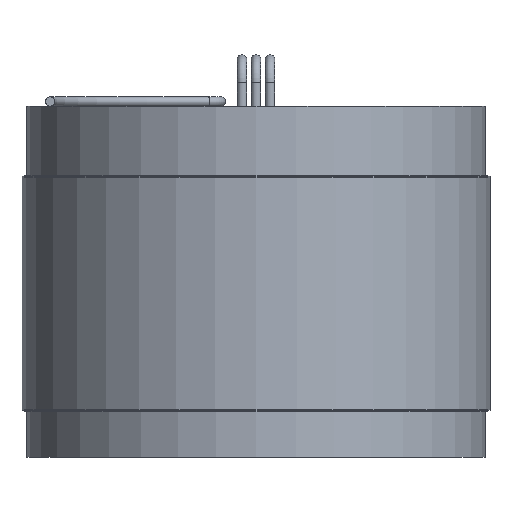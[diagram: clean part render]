
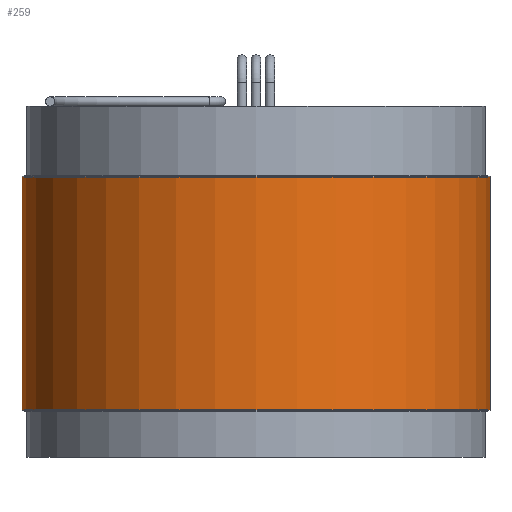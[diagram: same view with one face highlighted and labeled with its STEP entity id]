
A CAD part, front view. The second image highlights one B-rep face of the part: STEP entity #259.
In plain terms, the highlighted cylindrical face has radius 63.5 mm (diameter 127 mm), a full revolution.
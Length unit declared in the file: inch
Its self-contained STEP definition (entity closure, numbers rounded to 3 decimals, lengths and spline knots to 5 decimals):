
#159 = ORIENTED_EDGE ( 'NONE', *, *, #1017, .T. ) ;
#243 = CARTESIAN_POINT ( 'NONE',  ( 2.5, 0., 1.24213 ) ) ;
#259 = ADVANCED_FACE ( 'NONE', ( #943, #873 ), #466, .T. ) ;
#434 = DIRECTION ( 'NONE',  ( 0., 0., 1. ) ) ;
#466 = CYLINDRICAL_SURFACE ( 'NONE', #674, 2.5 ) ;
#528 = CARTESIAN_POINT ( 'NONE',  ( 0., 0., 1.24213 ) ) ;
#542 = EDGE_LOOP ( 'NONE', ( #159 ) ) ;
#564 = DIRECTION ( 'NONE',  ( 1., 0., 0. ) ) ;
#656 = AXIS2_PLACEMENT_3D ( 'NONE', #528, #1405, #748 ) ;
#661 = CARTESIAN_POINT ( 'NONE',  ( 2.5, 0., -1.24213 ) ) ;
#663 = VERTEX_POINT ( 'NONE', #661 ) ;
#665 = CARTESIAN_POINT ( 'NONE',  ( 0., 0., -1.26 ) ) ;
#674 = AXIS2_PLACEMENT_3D ( 'NONE', #665, #434, #564 ) ;
#748 = DIRECTION ( 'NONE',  ( 1., 0., 0. ) ) ;
#806 = CIRCLE ( 'NONE', #922, 2.5 ) ;
#827 = ORIENTED_EDGE ( 'NONE', *, *, #1346, .F. ) ;
#873 = FACE_OUTER_BOUND ( 'NONE', #542, .T. ) ;
#920 = CARTESIAN_POINT ( 'NONE',  ( 0., 0., -1.24213 ) ) ;
#922 = AXIS2_PLACEMENT_3D ( 'NONE', #920, #1236, #1036 ) ;
#943 = FACE_OUTER_BOUND ( 'NONE', #998, .T. ) ;
#998 = EDGE_LOOP ( 'NONE', ( #827 ) ) ;
#1017 = EDGE_CURVE ( 'NONE', #663, #663, #806, .T. ) ;
#1036 = DIRECTION ( 'NONE',  ( 1., 0., 0. ) ) ;
#1154 = VERTEX_POINT ( 'NONE', #243 ) ;
#1236 = DIRECTION ( 'NONE',  ( 0., 0., 1. ) ) ;
#1299 = CIRCLE ( 'NONE', #656, 2.5 ) ;
#1346 = EDGE_CURVE ( 'NONE', #1154, #1154, #1299, .T. ) ;
#1405 = DIRECTION ( 'NONE',  ( 0., 0., 1. ) ) ;
